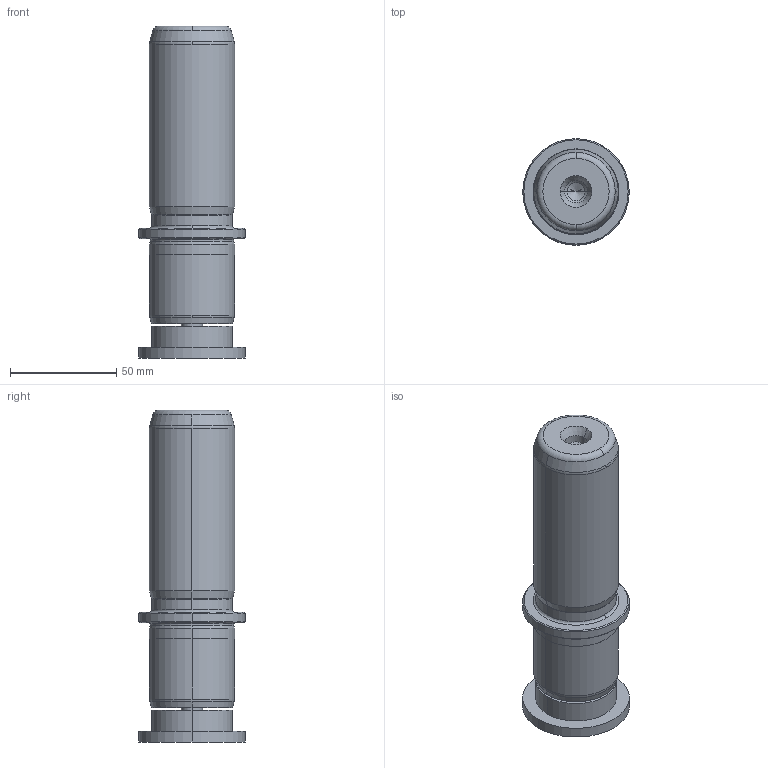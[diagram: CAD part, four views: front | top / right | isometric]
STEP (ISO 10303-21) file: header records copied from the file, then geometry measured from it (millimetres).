
FILE_DESCRIPTION((''),'2;1');
FILE_NAME('P22_040_100.stp','2009-02-16T10:18:26',(''),(''),'Mechanical Desktop 2009','Mechanical Desktop 2009',', , ');
FILE_SCHEMA(('CONFIG_CONTROL_DESIGN'));
Length unit declared in the file: millimetre
Products named in the file (2): Product; blmdl1
Assembly tree (1 placements, depth 2):
  Product
    blmdl1
Bounding box: 50 x 50 x 156 mm (x, y, z)
Volume: 194640.7 mm3; surface area: 31012.6 mm2
Topology: 3 solids, 3 shells, 99 faces, 237 edges, 149 vertices
Faces by surface type: cylinder 32, cone 28, plane 19, torus 10, bspline 10
Entity records: 3419 total; most frequent: CARTESIAN_POINT 923, DIRECTION 570, ORIENTED_EDGE 466, AXIS2_PLACEMENT_3D 246, EDGE_CURVE 233, CIRCLE 155, VERTEX_POINT 149, EDGE_LOOP 110
